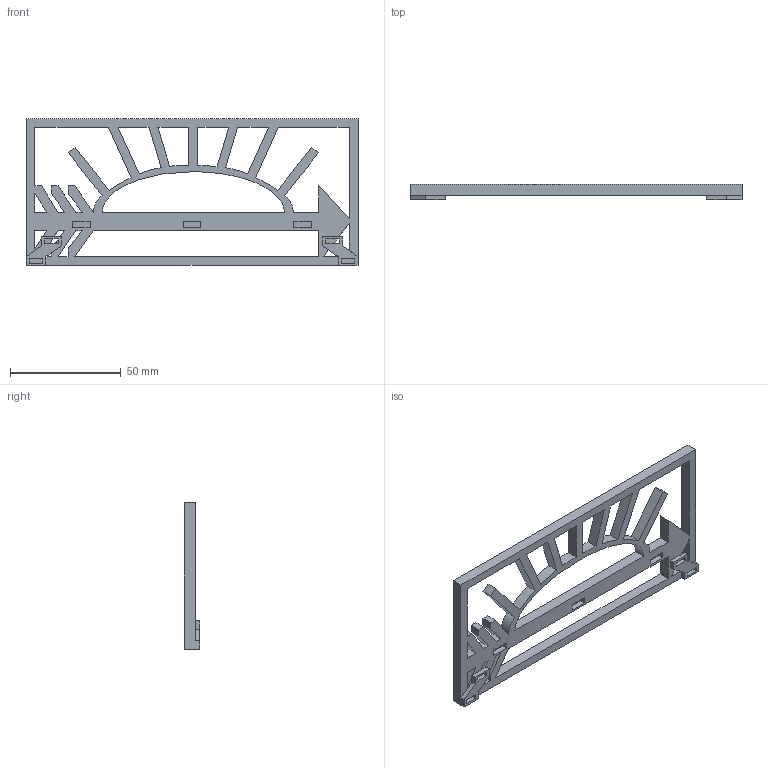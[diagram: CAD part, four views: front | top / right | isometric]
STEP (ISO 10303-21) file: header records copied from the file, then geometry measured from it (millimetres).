
FILE_DESCRIPTION(/* description */ ('STEP AP242','CAx-IF Rec.Pracs.---Representation and Presentation of Product Manufacturing Information (PMI)---4.0---2014-10-13','CAx-IF Rec.Pracs.---3D Tessellated Geometry---0.4---2014-09-14','2;1'),/* implementation_level */ '2;1');
FILE_NAME(/* name */ '65c2f4b2b7d65a7152e5d267',/* time_stamp */ '2024-02-07T03:10:43Z',/* author */ (''),/* organization */ (''),/* preprocessor_version */ 'ST-DEVELOPER v19.4',/* originating_system */ ' ',/* authorisation */ ' ');
FILE_SCHEMA (('AP242_MANAGED_MODEL_BASED_3D_ENGINEERING_MIM_LF { 1 0 10303 442 1 1 4 }'));
Length unit declared in the file: metre
Products named in the file (1): Arrow of Light Right
Bounding box: 150 x 7 x 66.38 mm (x, y, z)
Volume: 21033 mm3; surface area: 17593.1 mm2
Topology: 1 solids, 1 shells, 133 faces, 387 edges, 252 vertices
Faces by surface type: plane 123, cylinder 8, bspline 2
Entity records: 4407 total; most frequent: CARTESIAN_POINT 799, ORIENTED_EDGE 774, DIRECTION 671, EDGE_CURVE 387, LINE 367, VECTOR 367, VERTEX_POINT 252, EDGE_LOOP 163
